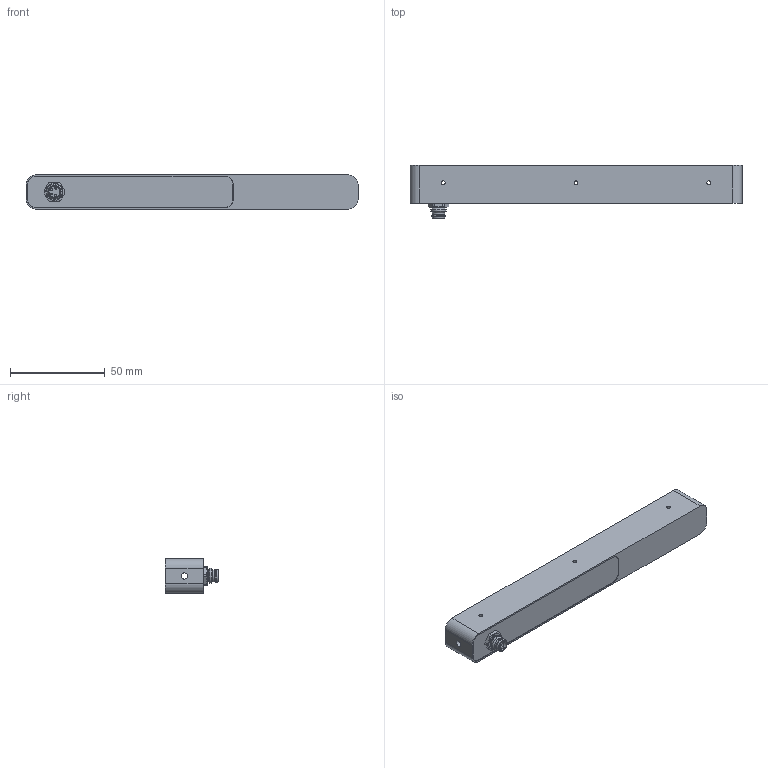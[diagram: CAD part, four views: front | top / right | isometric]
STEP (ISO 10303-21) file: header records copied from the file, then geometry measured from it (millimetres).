
FILE_DESCRIPTION (( 'STEP AP214' ), '1' );
FILE_NAME ('01855.01 Basisbaugruppe SBL-0115 Step18082020.STEP', '2020-08-18T13:06:15', ( '' ), ( '' ), 'SwSTEP 2.0', 'SolidWorks 2013', '' );
FILE_SCHEMA (( 'AUTOMOTIVE_DESIGN' ));
Length unit declared in the file: millimetre
Products named in the file (1): 01855.01 Basisbaugruppe SBL-0115 Step18082020
Bounding box: 175 x 28 x 18 mm (x, y, z)
Surface area: 17475.7 mm2 (no closed solid volume)
Topology: 0 solids, 9 shells, 78 faces, 230 edges, 163 vertices
Faces by surface type: cylinder 37, plane 34, cone 5, bspline 2
Full cylindrical faces by diameter (mm): 1 x4, 2.05 x6, 3.3 x2, 5.8 x1, 6.5 x2, 6.9 x1, 8 x1
Entity records: 4010 total; most frequent: CARTESIAN_POINT 1180, DIRECTION 427, ORIENTED_EDGE 315, EDGE_CURVE 197, AXIS2_PLACEMENT_3D 168, VERTEX_POINT 154, EDGE_LOOP 116, FACE_OUTER_BOUND 97
